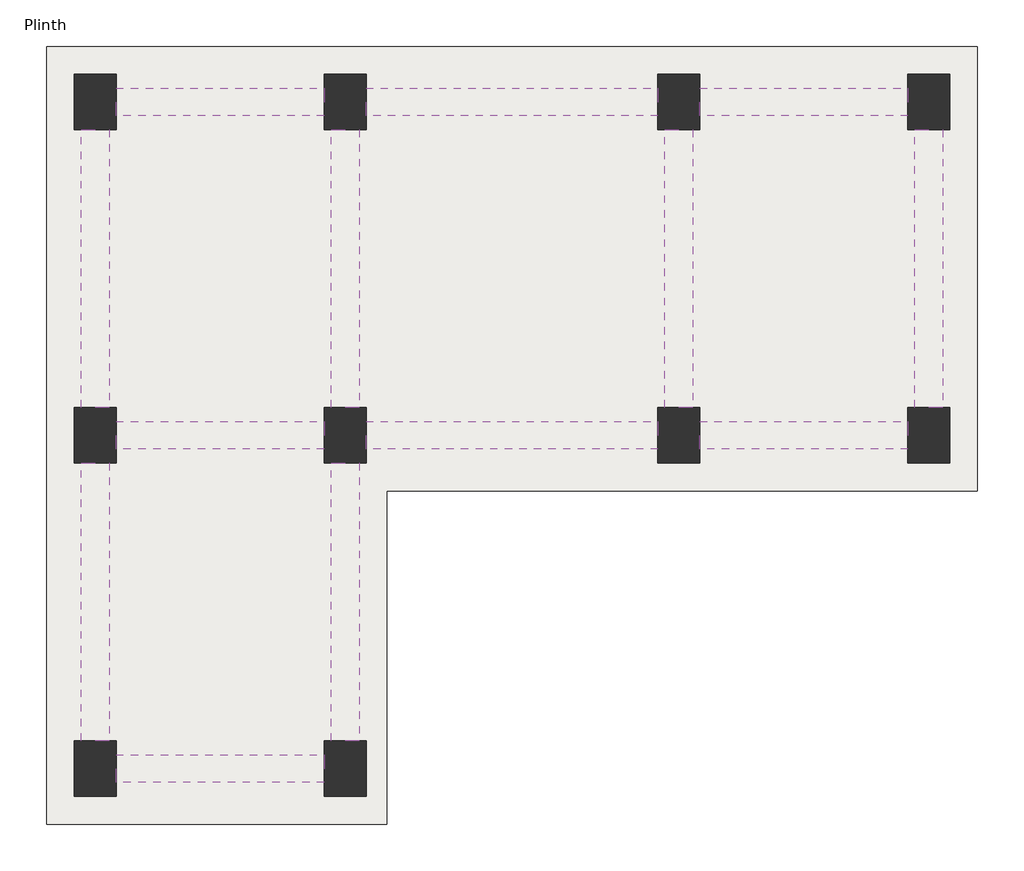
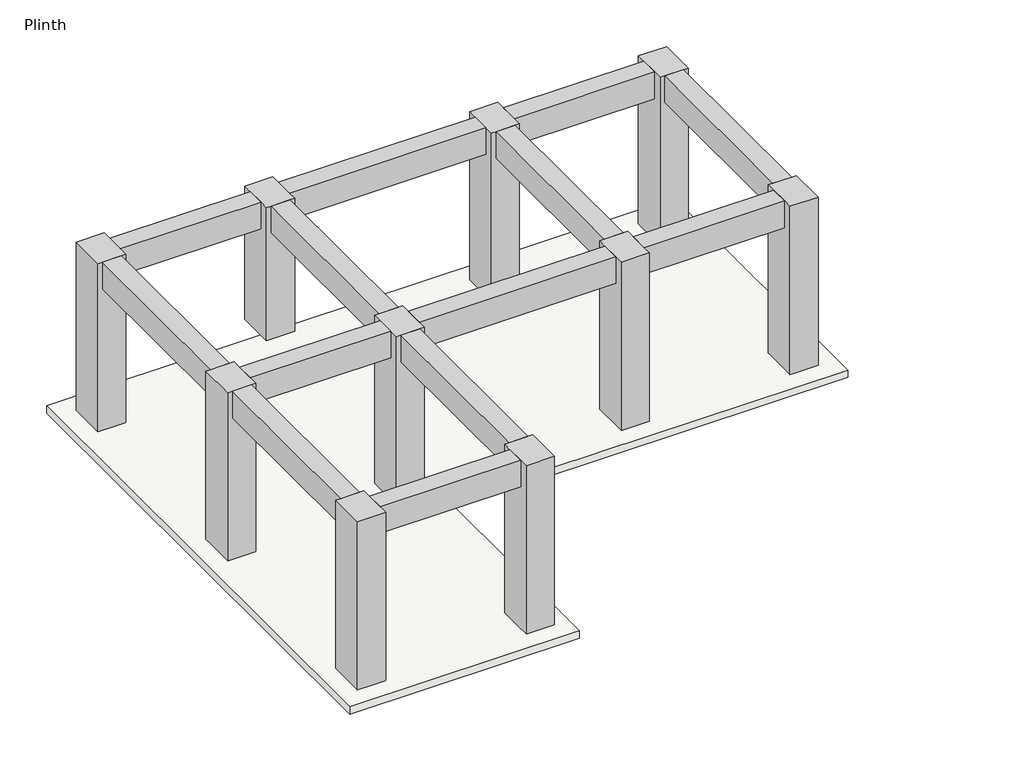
# One storey: 13 beams, 10 columns, 1 slab.
"""IFC4 building model written with IfcOpenShell, lengths in millimetres."""

from ifc_helpers import new_model, si_unit, frame, origin, place, context, project, spatial, polyline, outline, extrude, faceted_brep, element, save

model = new_model("IFC4")

# Units and contexts
model_context = context("Model", 3, world=origin())
ifc_project = project(units=[si_unit("LENGTHUNIT", "METRE", prefix="MILLI")], contexts=[model_context])

# Site, building, storey
site = spatial("IfcSite", under=ifc_project)
building = spatial("IfcBuilding", under=site)
storey = spatial("IfcBuildingStorey", under=building, Name="Plinth", Elevation=3048.0)

# Beams
placement = place(None, origin())
element("IfcBeam", 1, ObjectType="Concrete-Rectangular Beam : 12 x 24", at=placement, inside=storey, context=model_context, shape_type="SweptSolid", body=[
    extrude(outline(polyline([(-23084.018666, 8390.6753347), (-23084.018666, 8695.4753347), (-20798.018666, 8695.4753347), (-20798.018666, 8390.6753347), (-23084.018666, 8390.6753347)])), frame((0.0, 0.0, 5486.4), z_axis=(0.0, 0.0, 1.0), x_axis=(1.0, 0.0, 0.0)), (0.0, 0.0, 1.0), 457.2),
])
element("IfcBeam", 2, ObjectType="Concrete-Rectangular Beam : 12 x 24", at=placement, inside=storey, context=model_context, shape_type="SweptSolid", body=[
    extrude(outline(polyline([(-20721.818666, 11895.8753347), (-20417.018666, 11895.8753347), (-20417.018666, 8847.8753347), (-20721.818666, 8847.8753347), (-20721.818666, 11895.8753347)])), frame((0.0, 0.0, 5486.4), z_axis=(0.0, 0.0, 1.0), x_axis=(1.0, 0.0, 0.0)), (0.0, 0.0, 1.0), 457.2),
])
element("IfcBeam", 3, ObjectType="Concrete-Rectangular Beam : 12 x 24", at=placement, inside=storey, context=model_context, shape_type="SweptSolid", body=[
    extrude(outline(polyline([(-23465.018666, 11895.8753347), (-23160.218666, 11895.8753347), (-23160.218666, 8847.8753347), (-23465.018666, 8847.8753347), (-23465.018666, 11895.8753347)])), frame((0.0, 0.0, 5486.4), z_axis=(0.0, 0.0, 1.0), x_axis=(1.0, 0.0, 0.0)), (0.0, 0.0, 1.0), 457.2),
])
element("IfcBeam", 4, ObjectType="Concrete-Rectangular Beam : 12 x 24", at=placement, inside=storey, context=model_context, shape_type="SweptSolid", body=[
    extrude(outline(polyline([(-23465.018666, 15553.4753347), (-23160.218666, 15553.4753347), (-23160.218666, 12505.4753347), (-23465.018666, 12505.4753347), (-23465.018666, 15553.4753347)])), frame((0.0, 0.0, 5486.4), z_axis=(0.0, 0.0, 1.0), x_axis=(1.0, 0.0, 0.0)), (0.0, 0.0, 1.0), 457.2),
])
element("IfcBeam", 5, ObjectType="Concrete-Rectangular Beam : 12 x 24", at=placement, inside=storey, context=model_context, shape_type="SweptSolid", body=[
    extrude(outline(polyline([(-23084.018666, 15705.8753347), (-23084.018666, 16010.6753347), (-20798.018666, 16010.6753347), (-20798.018666, 15705.8753347), (-23084.018666, 15705.8753347)])), frame((0.0, 0.0, 5486.4), z_axis=(0.0, 0.0, 1.0), x_axis=(1.0, 0.0, 0.0)), (0.0, 0.0, 1.0), 457.2),
])
element("IfcBeam", 6, ObjectType="Concrete-Rectangular Beam : 12 x 24", at=placement, inside=storey, context=model_context, shape_type="SweptSolid", body=[
    extrude(outline(polyline([(-20340.818666, 15705.8753347), (-20340.818666, 16010.6753347), (-17140.418666, 16010.6753347), (-17140.418666, 15705.8753347), (-20340.818666, 15705.8753347)])), frame((0.0, 0.0, 5486.4), z_axis=(0.0, 0.0, 1.0), x_axis=(1.0, 0.0, 0.0)), (0.0, 0.0, 1.0), 457.2),
])
element("IfcBeam", 7, ObjectType="Concrete-Rectangular Beam : 12 x 24", at=placement, inside=storey, context=model_context, shape_type="SweptSolid", body=[
    extrude(outline(polyline([(-16683.218666, 15705.8753347), (-16683.218666, 16010.6753347), (-14397.218666, 16010.6753347), (-14397.218666, 15705.8753347), (-16683.218666, 15705.8753347)])), frame((0.0, 0.0, 5486.4), z_axis=(0.0, 0.0, 1.0), x_axis=(1.0, 0.0, 0.0)), (0.0, 0.0, 1.0), 457.2),
])
element("IfcBeam", 8, ObjectType="Concrete-Rectangular Beam : 12 x 24", at=placement, inside=storey, context=model_context, shape_type="SweptSolid", body=[
    extrude(outline(polyline([(-14321.018666, 15553.4753347), (-14016.218666, 15553.4753347), (-14016.218666, 12505.4753347), (-14321.018666, 12505.4753347), (-14321.018666, 15553.4753347)])), frame((0.0, 0.0, 5486.4), z_axis=(0.0, 0.0, 1.0), x_axis=(1.0, 0.0, 0.0)), (0.0, 0.0, 1.0), 457.2),
])
element("IfcBeam", 9, ObjectType="Concrete-Rectangular Beam : 12 x 24", at=placement, inside=storey, context=model_context, shape_type="SweptSolid", body=[
    extrude(outline(polyline([(-16683.218666, 12048.2753347), (-16683.218666, 12353.0753347), (-14397.218666, 12353.0753347), (-14397.218666, 12048.2753347), (-16683.218666, 12048.2753347)])), frame((0.0, 0.0, 5486.4), z_axis=(0.0, 0.0, 1.0), x_axis=(1.0, 0.0, 0.0)), (0.0, 0.0, 1.0), 457.2),
])
element("IfcBeam", 10, ObjectType="Concrete-Rectangular Beam : 12 x 24", at=placement, inside=storey, context=model_context, shape_type="SweptSolid", body=[
    extrude(outline(polyline([(-20340.818666, 12048.2753347), (-20340.818666, 12353.0753347), (-17140.418666, 12353.0753347), (-17140.418666, 12048.2753347), (-20340.818666, 12048.2753347)])), frame((0.0, 0.0, 5486.4), z_axis=(0.0, 0.0, 1.0), x_axis=(1.0, 0.0, 0.0)), (0.0, 0.0, 1.0), 457.2),
])
element("IfcBeam", 11, ObjectType="Concrete-Rectangular Beam : 12 x 24", at=placement, inside=storey, context=model_context, shape_type="SweptSolid", body=[
    extrude(outline(polyline([(-23084.018666, 12048.2753347), (-23084.018666, 12353.0753347), (-20798.018666, 12353.0753347), (-20798.018666, 12048.2753347), (-23084.018666, 12048.2753347)])), frame((0.0, 0.0, 5486.4), z_axis=(0.0, 0.0, 1.0), x_axis=(1.0, 0.0, 0.0)), (0.0, 0.0, 1.0), 457.2),
])
element("IfcBeam", 12, ObjectType="Concrete-Rectangular Beam : 12 x 24", at=placement, inside=storey, context=model_context, shape_type="SweptSolid", body=[
    extrude(outline(polyline([(-20721.818666, 15553.4753347), (-20417.018666, 15553.4753347), (-20417.018666, 12505.4753347), (-20721.818666, 12505.4753347), (-20721.818666, 15553.4753347)])), frame((0.0, 0.0, 5486.4), z_axis=(0.0, 0.0, 1.0), x_axis=(1.0, 0.0, 0.0)), (0.0, 0.0, 1.0), 457.2),
])
element("IfcBeam", 13, ObjectType="Concrete-Rectangular Beam : 12 x 24", at=placement, inside=storey, context=model_context, shape_type="SweptSolid", body=[
    extrude(outline(polyline([(-17064.218666, 15553.4753347), (-16759.418666, 15553.4753347), (-16759.418666, 12505.4753347), (-17064.218666, 12505.4753347), (-17064.218666, 15553.4753347)])), frame((0.0, 0.0, 5486.4), z_axis=(0.0, 0.0, 1.0), x_axis=(1.0, 0.0, 0.0)), (0.0, 0.0, 1.0), 457.2),
])

# Columns
element("IfcColumn", 14, ObjectType="Concrete-Rectangular-Column : 18 x 24", at=placement, inside=storey, context=model_context, shape_type="Brep", body=[
    faceted_brep([(-23084.018666, 16163.0753347, 3048.0), (-23084.018666, 15553.4753347, 3048.0), (-23541.218666, 15553.4753347, 3048.0), (-23541.218666, 16163.0753347, 3048.0), (-23084.018666, 16163.0753347, 5943.6), (-23084.018666, 16010.6753347, 5943.6), (-23084.018666, 15705.8753347, 5943.6), (-23084.018666, 15553.4753347, 5943.6), (-23160.218666, 15553.4753347, 5943.6), (-23465.018666, 15553.4753347, 5943.6), (-23541.218666, 15553.4753347, 5943.6), (-23541.218666, 16163.0753347, 5943.6)], [[[0, 1, 2, 3]], [[1, 0, 4, 5, 6, 7]], [[2, 1, 7, 8, 9, 10]], [[3, 2, 10, 11]], [[0, 3, 11, 4]], [[7, 6, 5, 4, 11, 10, 9, 8]]]),
])
element("IfcColumn", 15, ObjectType="Concrete-Rectangular-Column : 18 x 24", at=placement, inside=storey, context=model_context, shape_type="Brep", body=[
    faceted_brep([(-20340.818666, 16163.0753347, 3657.6), (-20340.818666, 15553.4753347, 3657.6), (-20798.018666, 15553.4753347, 3657.6), (-20798.018666, 16163.0753347, 3657.6), (-20340.818666, 16163.0753347, 5943.6), (-20340.818666, 16010.6753347, 5943.6), (-20340.818666, 15705.8753347, 5943.6), (-20340.818666, 15553.4753347, 5943.6), (-20417.018666, 15553.4753347, 5943.6), (-20721.818666, 15553.4753347, 5943.6), (-20798.018666, 15553.4753347, 5943.6), (-20798.018666, 15705.8753347, 5943.6), (-20798.018666, 16010.6753347, 5943.6), (-20798.018666, 16163.0753347, 5943.6)], [[[0, 1, 2, 3]], [[1, 0, 4, 5, 6, 7]], [[2, 1, 7, 8, 9, 10]], [[3, 2, 10, 11, 12, 13]], [[0, 3, 13, 4]], [[7, 6, 5, 4, 13, 12, 11, 10, 9, 8]]]),
])
element("IfcColumn", 16, ObjectType="Concrete-Rectangular-Column : 18 x 24", at=placement, inside=storey, context=model_context, shape_type="Brep", body=[
    faceted_brep([(-16683.218666, 16163.0753347, 3048.0), (-16683.218666, 15553.4753347, 3048.0), (-17140.418666, 15553.4753347, 3048.0), (-17140.418666, 16163.0753347, 3048.0), (-16683.218666, 16163.0753347, 5943.6), (-16683.218666, 16010.6753347, 5943.6), (-16683.218666, 15705.8753347, 5943.6), (-16683.218666, 15553.4753347, 5943.6), (-16759.418666, 15553.4753347, 5943.6), (-17064.218666, 15553.4753347, 5943.6), (-17140.418666, 15553.4753347, 5943.6), (-17140.418666, 15705.8753347, 5943.6), (-17140.418666, 16010.6753347, 5943.6), (-17140.418666, 16163.0753347, 5943.6)], [[[0, 1, 2, 3]], [[1, 0, 4, 5, 6, 7]], [[2, 1, 7, 8, 9, 10]], [[3, 2, 10, 11, 12, 13]], [[0, 3, 13, 4]], [[7, 6, 5, 4, 13, 12, 11, 10, 9, 8]]]),
])
element("IfcColumn", 17, ObjectType="Concrete-Rectangular-Column : 18 x 24", at=placement, inside=storey, context=model_context, shape_type="Brep", body=[
    faceted_brep([(-13940.018666, 16163.0753347, 3048.0), (-13940.018666, 15553.4753347, 3048.0), (-14397.218666, 15553.4753347, 3048.0), (-14397.218666, 16163.0753347, 3048.0), (-13940.018666, 16163.0753347, 5943.6), (-13940.018666, 15553.4753347, 5943.6), (-14016.218666, 15553.4753347, 5943.6), (-14321.018666, 15553.4753347, 5943.6), (-14397.218666, 15553.4753347, 5943.6), (-14397.218666, 15705.8753347, 5943.6), (-14397.218666, 16010.6753347, 5943.6), (-14397.218666, 16163.0753347, 5943.6)], [[[0, 1, 2, 3]], [[1, 0, 4, 5]], [[2, 1, 5, 6, 7, 8]], [[3, 2, 8, 9, 10, 11]], [[0, 3, 11, 4]], [[5, 4, 11, 10, 9, 8, 7, 6]]]),
])
element("IfcColumn", 18, ObjectType="Concrete-Rectangular-Column : 18 x 24", at=placement, inside=storey, context=model_context, shape_type="Brep", body=[
    faceted_brep([(-23084.018666, 12505.4753347, 3048.0), (-23084.018666, 11895.8753347, 3048.0), (-23541.218666, 11895.8753347, 3048.0), (-23541.218666, 12505.4753347, 3048.0), (-23084.018666, 12505.4753347, 5943.6), (-23084.018666, 12353.0753347, 5943.6), (-23084.018666, 12048.2753347, 5943.6), (-23084.018666, 11895.8753347, 5943.6), (-23160.218666, 11895.8753347, 5943.6), (-23465.018666, 11895.8753347, 5943.6), (-23541.218666, 11895.8753347, 5943.6), (-23541.218666, 12505.4753347, 5943.6), (-23465.018666, 12505.4753347, 5943.6), (-23160.218666, 12505.4753347, 5943.6)], [[[0, 1, 2, 3]], [[1, 0, 4, 5, 6, 7]], [[2, 1, 7, 8, 9, 10]], [[3, 2, 10, 11]], [[0, 3, 11, 12, 13, 4]], [[7, 6, 5, 4, 13, 12, 11, 10, 9, 8]]]),
])
element("IfcColumn", 19, ObjectType="Concrete-Rectangular-Column : 18 x 24", at=placement, inside=storey, context=model_context, shape_type="Brep", body=[
    faceted_brep([(-20340.818666, 12505.4753347, 3048.0), (-20340.818666, 11895.8753347, 3048.0), (-20798.018666, 11895.8753347, 3048.0), (-20798.018666, 12505.4753347, 3048.0), (-20340.818666, 12505.4753347, 5943.6), (-20340.818666, 12353.0753347, 5943.6), (-20340.818666, 12048.2753347, 5943.6), (-20340.818666, 11895.8753347, 5943.6), (-20417.018666, 11895.8753347, 5943.6), (-20721.818666, 11895.8753347, 5943.6), (-20798.018666, 11895.8753347, 5943.6), (-20798.018666, 12048.2753347, 5943.6), (-20798.018666, 12353.0753347, 5943.6), (-20798.018666, 12505.4753347, 5943.6), (-20721.818666, 12505.4753347, 5943.6), (-20417.018666, 12505.4753347, 5943.6)], [[[0, 1, 2, 3]], [[1, 0, 4, 5, 6, 7]], [[2, 1, 7, 8, 9, 10]], [[3, 2, 10, 11, 12, 13]], [[0, 3, 13, 14, 15, 4]], [[7, 6, 5, 4, 15, 14, 13, 12, 11, 10, 9, 8]]]),
])
element("IfcColumn", 20, ObjectType="Concrete-Rectangular-Column : 18 x 24", at=placement, inside=storey, context=model_context, shape_type="Brep", body=[
    faceted_brep([(-16683.218666, 12505.4753347, 3048.0), (-16683.218666, 11895.8753347, 3048.0), (-17140.418666, 11895.8753347, 3048.0), (-17140.418666, 12505.4753347, 3048.0), (-16683.218666, 12505.4753347, 5943.6), (-16683.218666, 12353.0753347, 5943.6), (-16683.218666, 12048.2753347, 5943.6), (-16683.218666, 11895.8753347, 5943.6), (-17140.418666, 11895.8753347, 5943.6), (-17140.418666, 12048.2753347, 5943.6), (-17140.418666, 12353.0753347, 5943.6), (-17140.418666, 12505.4753347, 5943.6), (-17064.218666, 12505.4753347, 5943.6), (-16759.418666, 12505.4753347, 5943.6)], [[[0, 1, 2, 3]], [[1, 0, 4, 5, 6, 7]], [[2, 1, 7, 8]], [[3, 2, 8, 9, 10, 11]], [[0, 3, 11, 12, 13, 4]], [[7, 6, 5, 4, 13, 12, 11, 10, 9, 8]]]),
])
element("IfcColumn", 21, ObjectType="Concrete-Rectangular-Column : 18 x 24", at=placement, inside=storey, context=model_context, shape_type="Brep", body=[
    faceted_brep([(-13940.018666, 12505.4753347, 3048.0), (-13940.018666, 11895.8753347, 3048.0), (-14397.218666, 11895.8753347, 3048.0), (-14397.218666, 12505.4753347, 3048.0), (-13940.018666, 12505.4753347, 5943.6), (-13940.018666, 11895.8753347, 5943.6), (-14397.218666, 11895.8753347, 5943.6), (-14397.218666, 12048.2753347, 5943.6), (-14397.218666, 12353.0753347, 5943.6), (-14397.218666, 12505.4753347, 5943.6), (-14321.018666, 12505.4753347, 5943.6), (-14016.218666, 12505.4753347, 5943.6)], [[[0, 1, 2, 3]], [[1, 0, 4, 5]], [[2, 1, 5, 6]], [[3, 2, 6, 7, 8, 9]], [[0, 3, 9, 10, 11, 4]], [[5, 4, 11, 10, 9, 8, 7, 6]]]),
])
element("IfcColumn", 22, ObjectType="Concrete-Rectangular-Column : 18 x 24", at=placement, inside=storey, context=model_context, shape_type="Brep", body=[
    faceted_brep([(-23084.018666, 8847.8753347, 3048.0), (-23084.018666, 8238.2753347, 3048.0), (-23541.218666, 8238.2753347, 3048.0), (-23541.218666, 8847.8753347, 3048.0), (-23084.018666, 8847.8753347, 5943.6), (-23084.018666, 8695.4753347, 5943.6), (-23084.018666, 8390.6753347, 5943.6), (-23084.018666, 8238.2753347, 5943.6), (-23541.218666, 8238.2753347, 5943.6), (-23541.218666, 8847.8753347, 5943.6), (-23465.018666, 8847.8753347, 5943.6), (-23160.218666, 8847.8753347, 5943.6)], [[[0, 1, 2, 3]], [[1, 0, 4, 5, 6, 7]], [[2, 1, 7, 8]], [[3, 2, 8, 9]], [[0, 3, 9, 10, 11, 4]], [[7, 6, 5, 4, 11, 10, 9, 8]]]),
])
element("IfcColumn", 23, ObjectType="Concrete-Rectangular-Column : 18 x 24", at=placement, inside=storey, context=model_context, shape_type="Brep", body=[
    faceted_brep([(-20340.818666, 8847.8753347, 3048.0), (-20340.818666, 8238.2753347, 3048.0), (-20798.018666, 8238.2753347, 3048.0), (-20798.018666, 8847.8753347, 3048.0), (-20340.818666, 8847.8753347, 5943.6), (-20340.818666, 8238.2753347, 5943.6), (-20798.018666, 8238.2753347, 5943.6), (-20798.018666, 8390.6753347, 5943.6), (-20798.018666, 8695.4753347, 5943.6), (-20798.018666, 8847.8753347, 5943.6), (-20721.818666, 8847.8753347, 5943.6), (-20417.018666, 8847.8753347, 5943.6)], [[[0, 1, 2, 3]], [[1, 0, 4, 5]], [[2, 1, 5, 6]], [[3, 2, 6, 7, 8, 9]], [[0, 3, 9, 10, 11, 4]], [[5, 4, 11, 10, 9, 8, 7, 6]]]),
])

# Slab
element("IfcSlab", 24, ObjectType="3\" LW Concrete on 2\" Metal Deck", at=placement, inside=storey, context=model_context, shape_type="SweptSolid", body=[
    extrude(outline(polyline([(-23846.018666, 7933.4753347), (-23846.018666, 16467.8753347), (-13635.218666, 16467.8753347), (-13635.218666, 11591.0753347), (-20112.218666, 11591.0753347), (-20112.218666, 7933.4753347), (-23846.018666, 7933.4753347)])), frame((0.0, 0.0, 2921.0), z_axis=(0.0, 0.0, 1.0), x_axis=(1.0, 0.0, 0.0)), (0.0, 0.0, 1.0), 127.0),
])

save(model, "model.ifc")
